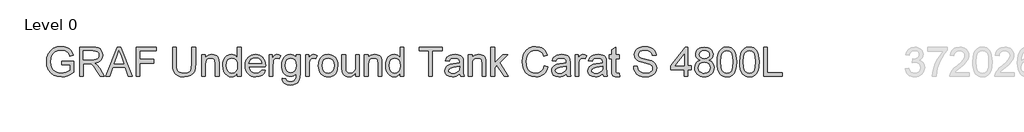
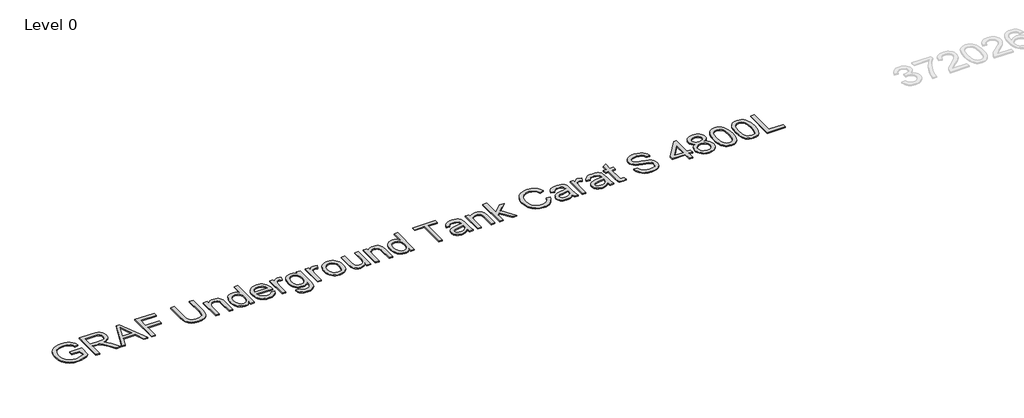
# One storey, part 15 of 20: 1 proxy.
"""IFC4 building model written with IfcOpenShell, lengths in millimetres."""

from ifc_helpers import new_model, si_unit, origin, origin_with_axes, place, context, project, spatial, polyline, outline, extrude, element, save

model = new_model("IFC4")

# Units and contexts
model_context = context("Model", 3, world=origin())
ifc_project = project(units=[si_unit("LENGTHUNIT", "METRE", prefix="MILLI")], contexts=[model_context])

# Site, building, storey
site = spatial("IfcSite", under=ifc_project)
building = spatial("IfcBuilding", under=site)
storey = spatial("IfcBuildingStorey", under=building, Name="Level 0", Elevation=0.0)

# Proxy
placement = place(None, origin())
element("IfcBuildingElementProxy", 1, Name="300mm Arial", ObjectType="300mm Arial", at=placement, inside=storey, context=model_context, shape_type="SweptSolid", body=[
    extrude(outline(polyline([(-14980.9940387, 1416.7454403), (-14980.9940387, 1454.4165566), (-14858.5629107, 1454.4165566), (-14858.5629107, 1341.7710897), (-14888.3153671, 1321.0777274), (-14919.0059225, 1306.2336889), (-14950.5610007, 1297.2941564), (-14982.9070251, 1294.3143123), (-15025.1674693, 1299.050793), (-15063.3628175, 1313.260235), (-15095.0926395, 1336.4459978), (-15117.9565055, 1368.1114405), (-15131.7796715, 1406.0952565), (-15136.3873935, 1448.2361391), (-15131.7980656, 1490.6805243), (-15118.0300819, 1530.1634594), (-15095.6536596, 1563.282036), (-15065.2390156, 1586.6333457), (-15028.1932987, 1600.4841028), (-14985.9236575, 1605.1010218), (-14954.8928112, 1602.4246803), (-14926.9889618, 1594.3956557), (-14903.4904994, 1581.5933623), (-14885.6758138, 1564.5972141), (-14872.4964413, 1542.5886738), (-14862.9039183, 1514.7492038), (-14897.6319786, 1504.9635427), (-14905.3850917, 1524.8199734), (-14914.8120678, 1539.8019677), (-14927.2832674, 1551.0959449), (-14944.169051, 1559.8883246), (-14964.3013932, 1565.5445103), (-14986.5122687, 1567.4299055), (-15012.5123287, 1565.3973575), (-15034.7415982, 1559.2997134), (-15053.1173039, 1549.9003284), (-15067.5566722, 1537.9625577), (-15086.9440533, 1508.9366683), (-15095.7732212, 1480.49939), (-15098.7162772, 1449.7812434), (-15095.175413, 1413.7563991), (-15084.5528204, 1384.1143073), (-15067.1703961, 1361.0665003), (-15043.3500369, 1344.8245102), (-15015.4737787, 1335.195199), (-14985.9236575, 1331.9854286), (-14959.831627, 1334.4042527), (-14934.3833899, 1341.6607251), (-14912.2828791, 1351.6579183), (-14896.234027, 1362.298905), (-14896.234027, 1416.7454403), (-14980.9940387, 1416.7454403)])), origin_with_axes(), (0.0, 0.0, 1.0), 10.0),
    extrude(outline(polyline([(-14797.3473467, 1299.0232018), (-14797.3473467, 1600.3921323), (-14667.4850024, 1600.3921323), (-14632.5821982, 1598.3595842), (-14607.1891434, 1592.2619402), (-14588.6294968, 1581.0047511), (-14574.2269167, 1563.4935682), (-14564.9838815, 1541.7793334), (-14561.9028698, 1517.912989), (-14567.0072325, 1488.2249119), (-14582.3203206, 1463.6136065), (-14593.9200997, 1453.5842236), (-14608.3019865, 1445.5689946), (-14645.4120827, 1435.5809984), (-14624.0013506, 1419.467767), (-14593.467145, 1380.6930048), (-14543.2144645, 1299.0232018), (-14586.9924219, 1299.0232018), (-14626.2086426, 1361.4895646), (-14654.5355562, 1402.8395009), (-14674.4379722, 1422.3740348), (-14692.3538253, 1429.5477337), (-14714.2060158, 1430.8721089), (-14759.6762304, 1430.8721089), (-14759.6762304, 1299.0232018), (-14797.3473467, 1299.0232018)]), holes=[polyline([(-14759.6762304, 1468.5432252), (-14675.3576771, 1468.5432252), (-14651.1418448, 1469.8767974), (-14632.3522719, 1473.8775141), (-14618.2072092, 1480.8120897), (-14607.9249074, 1490.9472387), (-14601.6617165, 1503.2069062), (-14599.5739861, 1516.5150374), (-14603.5563087, 1534.890743), (-14615.5032765, 1549.6979933), (-14636.058683, 1559.4652603), (-14665.8663217, 1562.721016), (-14759.6762304, 1562.721016), (-14759.6762304, 1468.5432252)])]), origin_with_axes(), (0.0, 0.0, 1.0), 10.0),
    extrude(outline(polyline([(-14531.0743586, 1299.0232018), (-14410.7769462, 1600.3921323), (-14378.6976362, 1600.3921323), (-14258.4002238, 1299.0232018), (-14298.2050557, 1299.0232018), (-14332.7123868, 1393.2009926), (-14456.835772, 1393.2009926), (-14491.2695268, 1299.0232018), (-14531.0743586, 1299.0232018)]), holes=[polyline([(-14443.003409, 1430.8721089), (-14346.4711735, 1430.8721089), (-14373.6208647, 1504.9635427), (-14394.7372912, 1562.721016), (-14413.499273, 1511.4382658), (-14443.003409, 1430.8721089)])]), origin_with_axes(), (0.0, 0.0, 1.0), 10.0),
    extrude(outline(polyline([(-14218.1539335, 1299.0232018), (-14218.1539335, 1600.3921323), (-14015.6716834, 1600.3921323), (-14015.6716834, 1562.721016), (-14180.4828172, 1562.721016), (-14180.4828172, 1473.2521147), (-14039.2161311, 1473.2521147), (-14039.2161311, 1435.5809984), (-14180.4828172, 1435.5809984), (-14180.4828172, 1299.0232018), (-14218.1539335, 1299.0232018)])), origin_with_axes(), (0.0, 0.0, 1.0), 10.0),
    extrude(outline(polyline([(-13648.3782994, 1600.3921323), (-13610.7071831, 1600.3921323), (-13610.7071831, 1426.5311014), (-13613.263963, 1385.8157615), (-13620.9343026, 1354.4630185), (-13635.2633063, 1330.2747773), (-13657.7960785, 1311.0529431), (-13688.5878015, 1298.49897), (-13727.6936576, 1294.3143123), (-13765.944188, 1297.956344), (-13796.5243789, 1308.8824393), (-13819.4434272, 1326.715519), (-13834.71053, 1351.0785041), (-13843.2913775, 1383.7556224), (-13846.15166, 1426.5311014), (-13846.15166, 1600.3921323), (-13808.4805437, 1600.3921323), (-13808.4805437, 1427.8554765), (-13806.6227396, 1394.0011359), (-13801.0493274, 1370.4290971), (-13790.9509666, 1354.1043335), (-13775.5183169, 1341.9918189), (-13755.3951718, 1334.4870262), (-13731.2253247, 1331.9854286), (-13692.9104149, 1336.9334414), (-13678.5676156, 1343.1184575), (-13667.4345868, 1351.7774799), (-13659.097461, 1363.954374), (-13653.1423712, 1380.6930048), (-13648.3782994, 1427.8554765), (-13648.3782994, 1600.3921323)])), origin_with_axes(), (0.0, 0.0, 1.0), 10.0),
    extrude(outline(polyline([(-13549.4916191, 1299.0232018), (-13549.4916191, 1520.3410101), (-13511.8205028, 1520.3410101), (-13511.8205028, 1489.4389225), (-13498.7331008, 1505.018725), (-13483.0153426, 1516.1471554), (-13464.6672281, 1522.8242136), (-13443.6887573, 1525.0498997), (-13425.1199136, 1523.2564749), (-13408.1145684, 1517.8762008), (-13393.9327174, 1509.5804618), (-13383.8343567, 1499.0406426), (-13372.5403794, 1471.3391284), (-13370.5538166, 1434.9188108), (-13370.5538166, 1299.0232018), (-13408.224933, 1299.0232018), (-13408.224933, 1429.8420393), (-13412.5659405, 1463.1721481), (-13418.5716141, 1473.0957649), (-13427.9066197, 1480.7936956), (-13439.8719816, 1485.7325114), (-13453.768724, 1487.3787834), (-13475.8324466, 1483.6815693), (-13494.6404136, 1472.5899271), (-13502.1567026, 1463.5354315), (-13507.5254805, 1451.1608009), (-13511.8205028, 1416.4511347), (-13511.8205028, 1299.0232018), (-13549.4916191, 1299.0232018)])), origin_with_axes(), (0.0, 0.0, 1.0), 10.0),
    extrude(outline(polyline([(-13182.1982351, 1299.0232018), (-13182.1982351, 1334.5606026), (-13193.4692197, 1316.9528506), (-13207.1222403, 1304.3758849), (-13223.1572968, 1296.8297054), (-13241.5743891, 1294.3143123), (-13265.9281772, 1297.956344), (-13288.2218261, 1308.8824393), (-13307.0941725, 1326.3292429), (-13321.1840529, 1349.5333998), (-13329.9580385, 1377.5568107), (-13332.8827003, 1409.4613768), (-13330.1879647, 1440.9704697), (-13322.1037579, 1469.426142), (-13308.6392769, 1493.209713), (-13289.8037187, 1510.7025018), (-13267.0226262, 1521.4630502), (-13241.7215419, 1525.0498997), (-13223.290654, 1522.4839227), (-13206.9934816, 1514.785992), (-13193.1795127, 1502.986177), (-13182.1982351, 1488.1145473), (-13182.1982351, 1600.3921323), (-13144.5271188, 1600.3921323), (-13144.5271188, 1299.0232018), (-13182.1982351, 1299.0232018)]), holes=[polyline([(-13295.211584, 1409.6085296), (-13290.962547, 1375.5334598), (-13278.2154359, 1351.2992333), (-13259.6925774, 1336.8138798), (-13238.1162984, 1331.9854286), (-13216.5492164, 1336.5931506), (-13198.4954075, 1350.4163165), (-13186.2725282, 1373.7124439), (-13182.1982351, 1406.73905), (-13186.3461046, 1442.8466678), (-13198.7897131, 1467.8810376), (-13217.3033745, 1482.5043469), (-13239.6614028, 1487.3787834), (-13261.458411, 1482.697485), (-13279.3190818, 1468.6535898), (-13291.2384585, 1444.529728), (-13295.211584, 1409.6085296)])]), origin_with_axes(), (0.0, 0.0, 1.0), 10.0),
    extrude(outline(polyline([(-12933.068548, 1364.9476554), (-12896.1331957, 1360.2387658), (-12909.4413268, 1332.4084929), (-12930.677315, 1311.6047661), (-12959.3629136, 1298.6369257), (-12995.019876, 1294.3143123), (-13018.3941782, 1296.1790141), (-13039.2208977, 1301.7731197), (-13057.5000343, 1311.0966291), (-13073.2315881, 1324.1495421), (-13085.8821303, 1340.5685754), (-13094.9182318, 1359.9904455), (-13100.3398927, 1382.4151523), (-13102.147113, 1407.842696), (-13100.3214986, 1434.1324631), (-13094.8446554, 1457.3044302), (-13085.7165834, 1477.3585975), (-13072.9372826, 1494.2949649), (-13057.2471155, 1507.7502488), (-13039.3864446, 1517.361166), (-13019.35527, 1523.1277162), (-12997.1535915, 1525.0498997), (-12975.6669838, 1523.1323148), (-12956.2359166, 1517.3795601), (-12938.8603901, 1507.7916356), (-12923.5404043, 1494.3685413), (-12911.0347157, 1477.4689621), (-12902.102081, 1457.451583), (-12896.7425002, 1434.3164041), (-12894.9559733, 1408.0634252), (-12895.1767025, 1397.9098821), (-13064.4759967, 1397.9098821), (-13057.9552883, 1369.7117272), (-13042.8077471, 1348.9815768), (-13020.9463596, 1336.2344656), (-12994.284112, 1331.9854286), (-12974.2345432, 1333.9535973), (-12957.3487597, 1339.8581033), (-12943.6267612, 1350.0668287), (-12933.068548, 1364.9476554)]), holes=[polyline([(-13064.4759967, 1435.5809984), (-12932.6270896, 1435.5809984), (-12937.7222552, 1455.4834144), (-12947.7102514, 1469.7204476), (-12969.6728065, 1482.9641994), (-12997.3007443, 1487.3787834), (-13022.6937991, 1483.8563132), (-13043.6906639, 1473.2889029), (-13058.2863821, 1456.8169866), (-13064.4759967, 1435.5809984)])]), origin_with_axes(), (0.0, 0.0, 1.0), 10.0),
    extrude(outline(polyline([(-12857.284857, 1299.0232018), (-12857.284857, 1520.3410101), (-12824.3226302, 1520.3410101), (-12824.3226302, 1487.5995125), (-12812.1457362, 1506.5822235), (-12800.9253353, 1517.7658362), (-12789.6681463, 1523.2288838), (-12777.3808876, 1525.0498997), (-12758.6189059, 1522.1436319), (-12739.5626185, 1513.4248286), (-12752.1441828, 1479.6532615), (-12765.3879346, 1485.4474029), (-12778.6316864, 1487.3787834), (-12789.8796784, 1485.5209793), (-12799.9320539, 1479.947567), (-12808.053049, 1471.081611), (-12813.5068996, 1459.3461753), (-12818.0870304, 1438.3033252), (-12819.6137407, 1415.3474887), (-12819.6137407, 1299.0232018), (-12857.284857, 1299.0232018)])), origin_with_axes(), (0.0, 0.0, 1.0), 10.0),
    extrude(outline(polyline([(-12725.4359499, 1280.1876437), (-12687.7648336, 1275.4787541), (-12683.6077671, 1263.7065303), (-12675.5511514, 1255.6131264), (-12659.7138315, 1249.3223443), (-12638.983681, 1247.2254169), (-12616.8739731, 1249.5982558), (-12600.4296479, 1256.7167724), (-12589.0253061, 1268.1211142), (-12582.0355482, 1283.3514288), (-12579.4603742, 1327.2765391), (-12591.9959532, 1314.915704), (-12605.9846661, 1306.0865361), (-12621.4265128, 1300.7890354), (-12638.3214935, 1299.0232018), (-12658.9757682, 1301.0787425), (-12677.1606351, 1307.2453644), (-12692.8760941, 1317.5230677), (-12706.1221452, 1331.9118522), (-12716.6320739, 1349.1747148), (-12724.1391659, 1368.0746523), (-12728.6434211, 1388.6116647), (-12730.1448394, 1410.785752), (-12727.4501038, 1441.2003959), (-12719.365897, 1469.1686246), (-12706.1773275, 1492.8694221), (-12688.1695038, 1510.4817726), (-12665.9586283, 1521.4078679), (-12640.1609034, 1525.0498997), (-12622.5439544, 1522.9897605), (-12606.5548832, 1516.809343), (-12592.1936898, 1506.5086471), (-12579.4603742, 1492.0876729), (-12579.4603742, 1520.3410101), (-12541.7892579, 1520.3410101), (-12541.7892579, 1329.2631018), (-12544.3644319, 1285.1448536), (-12552.0899538, 1256.091373), (-12565.398085, 1236.8235535), (-12584.7210868, 1222.0622884), (-12609.6358949, 1212.6812976), (-12639.719445, 1209.5543006), (-12674.7694021, 1213.9596875), (-12702.3697488, 1227.1758482), (-12712.7647144, 1237.0971657), (-12720.0740698, 1249.2395708), (-12724.297815, 1263.6030635), (-12725.4359499, 1280.1876437)]), holes=[polyline([(-12692.4737231, 1413.3609259), (-12688.4546123, 1378.8076095), (-12676.39728, 1355.0516297), (-12658.2698946, 1341.283646), (-12636.0406251, 1336.6943181), (-12613.9769024, 1341.2560549), (-12595.7575466, 1354.9412651), (-12583.5346673, 1378.3937423), (-12579.4603742, 1412.2572799), (-12583.654229, 1444.9160041), (-12596.2357932, 1468.4328606), (-12614.7218635, 1482.6423027), (-12636.6292363, 1487.3787834), (-12658.1411359, 1482.7158791), (-12676.1765508, 1468.7271662), (-12688.39943, 1445.5597976), (-12692.4737231, 1413.3609259)])]), origin_with_axes(), (0.0, 0.0, 1.0), 10.0),
    extrude(outline(polyline([(-12485.2825835, 1299.0232018), (-12485.2825835, 1520.3410101), (-12452.3203567, 1520.3410101), (-12452.3203567, 1487.5995125), (-12440.1434626, 1506.5822235), (-12428.9230618, 1517.7658362), (-12417.6658727, 1523.2288838), (-12405.3786141, 1525.0498997), (-12386.6166324, 1522.1436319), (-12367.560345, 1513.4248286), (-12380.1419092, 1479.6532615), (-12393.3856611, 1485.4474029), (-12406.6294129, 1487.3787834), (-12417.8774049, 1485.5209793), (-12427.9297804, 1479.947567), (-12436.0507755, 1471.081611), (-12441.504626, 1459.3461753), (-12446.0847569, 1438.3033252), (-12447.6114672, 1415.3474887), (-12447.6114672, 1299.0232018), (-12485.2825835, 1299.0232018)])), origin_with_axes(), (0.0, 0.0, 1.0), 10.0),
    extrude(outline(polyline([(-12353.4336764, 1409.682106), (-12351.3965298, 1438.3447119), (-12345.2850902, 1463.0433894), (-12335.0993575, 1483.7781383), (-12320.8393316, 1500.5489588), (-12306.4827368, 1511.2681204), (-12290.6362198, 1518.9246644), (-12273.2997808, 1523.5185909), (-12254.4734197, 1525.0498997), (-12233.6903862, 1523.1851978), (-12214.8985141, 1517.5910922), (-12198.0978032, 1508.2675829), (-12183.2882536, 1495.2146698), (-12171.2010308, 1478.8738115), (-12162.5673002, 1459.6864662), (-12157.3870619, 1437.6526339), (-12155.6603158, 1412.7723147), (-12158.7137363, 1374.7149223), (-12167.873998, 1345.7442152), (-12182.8743864, 1324.0483745), (-12203.448187, 1307.8155815), (-12227.8847485, 1297.6896296), (-12254.4734197, 1294.3143123), (-12275.5599558, 1296.1721164), (-12294.5265719, 1301.7455286), (-12311.373268, 1311.034549), (-12326.1000441, 1324.0391775), (-12338.0585082, 1340.538685), (-12346.6002683, 1360.3123422), (-12351.7253244, 1383.3601492), (-12353.4336764, 1409.682106)]), holes=[polyline([(-12315.7625601, 1409.7556824), (-12311.4031584, 1375.6622185), (-12298.3249535, 1351.3728097), (-12278.6432668, 1336.8322739), (-12254.4734197, 1331.9854286), (-12230.4139372, 1336.859865), (-12210.7690387, 1351.4831743), (-12197.6908337, 1376.0944798), (-12193.3314321, 1410.9329048), (-12197.7184249, 1444.0330873), (-12210.8794033, 1467.9914022), (-12230.5518929, 1482.5319381), (-12254.4734197, 1487.3787834), (-12278.6432668, 1482.5503322), (-12298.3249535, 1468.0649786), (-12311.4031584, 1443.8307522), (-12315.7625601, 1409.7556824)])]), origin_with_axes(), (0.0, 0.0, 1.0), 10.0),
    extrude(outline(polyline([(-11972.0136238, 1299.0232018), (-11972.0136238, 1337.0622001), (-11985.6436517, 1318.3599992), (-12001.5177598, 1305.0012842), (-12019.6359481, 1296.9860553), (-12039.9982165, 1294.3143123), (-12058.346331, 1296.1905105), (-12075.4252526, 1301.819105), (-12089.7542563, 1310.2803909), (-12099.8526171, 1320.6546631), (-12111.073018, 1348.3929656), (-12113.2803099, 1383.4153315), (-12113.2803099, 1520.3410101), (-12075.6091936, 1520.3410101), (-12075.6091936, 1401.1472437), (-12073.3283253, 1362.7403634), (-12067.8376865, 1349.9288729), (-12058.4291045, 1340.1891971), (-12045.7279786, 1334.0363707), (-12030.3597082, 1331.9854286), (-12014.1085211, 1334.082356), (-11998.9057976, 1340.3731381), (-11986.3702186, 1350.2783608), (-11978.1204649, 1363.21861), (-11973.5403341, 1380.9413251), (-11972.0136238, 1405.1939456), (-11972.0136238, 1520.3410101), (-11934.3425075, 1520.3410101), (-11934.3425075, 1299.0232018), (-11972.0136238, 1299.0232018)])), origin_with_axes(), (0.0, 0.0, 1.0), 10.0),
    extrude(outline(polyline([(-11882.5447226, 1299.0232018), (-11882.5447226, 1520.3410101), (-11844.8736063, 1520.3410101), (-11844.8736063, 1489.4389225), (-11831.7862043, 1505.018725), (-11816.068446, 1516.1471554), (-11797.7203315, 1522.8242136), (-11776.7418607, 1525.0498997), (-11758.173017, 1523.2564749), (-11741.1676718, 1517.8762008), (-11726.9858209, 1509.5804618), (-11716.8874601, 1499.0406426), (-11705.5934829, 1471.3391284), (-11703.6069201, 1434.9188108), (-11703.6069201, 1299.0232018), (-11741.2780364, 1299.0232018), (-11741.2780364, 1429.8420393), (-11745.619044, 1463.1721481), (-11751.6247175, 1473.0957649), (-11760.9597232, 1480.7936956), (-11772.925085, 1485.7325114), (-11786.8218274, 1487.3787834), (-11808.8855501, 1483.6815693), (-11827.6935171, 1472.5899271), (-11835.2098061, 1463.5354315), (-11840.578584, 1451.1608009), (-11844.8736063, 1416.4511347), (-11844.8736063, 1299.0232018), (-11882.5447226, 1299.0232018)])), origin_with_axes(), (0.0, 0.0, 1.0), 10.0),
    extrude(outline(polyline([(-11515.2513386, 1299.0232018), (-11515.2513386, 1334.5606026), (-11526.5223232, 1316.9528506), (-11540.1753437, 1304.3758849), (-11556.2104002, 1296.8297054), (-11574.6274926, 1294.3143123), (-11598.9812807, 1297.956344), (-11621.2749296, 1308.8824393), (-11640.1472759, 1326.3292429), (-11654.2371564, 1349.5333998), (-11663.0111419, 1377.5568107), (-11665.9358038, 1409.4613768), (-11663.2410682, 1440.9704697), (-11655.1568613, 1469.426142), (-11641.6923803, 1493.209713), (-11622.8568222, 1510.7025018), (-11600.0757296, 1521.4630502), (-11574.7746454, 1525.0498997), (-11556.3437574, 1522.4839227), (-11540.046585, 1514.785992), (-11526.2326161, 1502.986177), (-11515.2513386, 1488.1145473), (-11515.2513386, 1600.3921323), (-11477.5802223, 1600.3921323), (-11477.5802223, 1299.0232018), (-11515.2513386, 1299.0232018)]), holes=[polyline([(-11628.2646875, 1409.6085296), (-11624.0156504, 1375.5334598), (-11611.2685393, 1351.2992333), (-11592.7456809, 1336.8138798), (-11571.1694018, 1331.9854286), (-11549.6023199, 1336.5931506), (-11531.548511, 1350.4163165), (-11519.3256317, 1373.7124439), (-11515.2513386, 1406.73905), (-11519.3992081, 1442.8466678), (-11531.8428166, 1467.8810376), (-11550.356478, 1482.5043469), (-11572.7145062, 1487.3787834), (-11594.5115144, 1482.697485), (-11612.3721853, 1468.6535898), (-11624.2915619, 1444.529728), (-11628.2646875, 1409.6085296)])]), origin_with_axes(), (0.0, 0.0, 1.0), 10.0),
    extrude(outline(polyline([(-11223.3001872, 1299.0232018), (-11223.3001872, 1562.721016), (-11322.1868675, 1562.721016), (-11322.1868675, 1600.3921323), (-11086.7423906, 1600.3921323), (-11086.7423906, 1562.721016), (-11185.6290709, 1562.721016), (-11185.6290709, 1299.0232018), (-11223.3001872, 1299.0232018)])), origin_with_axes(), (0.0, 0.0, 1.0), 10.0),
    extrude(outline(polyline([(-10907.8045881, 1327.2765391), (-10925.8032148, 1311.8438894), (-10944.3352703, 1301.7455286), (-10963.823819, 1296.1721164), (-10984.6919251, 1294.3143123), (-11016.1734269, 1298.7840785), (-11039.3959778, 1312.1933772), (-11053.7157845, 1332.5556457), (-11058.4890534, 1357.8843211), (-11056.6864316, 1373.5009117), (-11051.2785663, 1387.6827627), (-11042.936842, 1399.8228685), (-11032.3326435, 1409.314224), (-11005.9555045, 1421.675059), (-10973.3611597, 1427.3404417), (-10934.8439148, 1433.3001301), (-10908.0253173, 1440.289888), (-10907.8045881, 1448.6775975), (-10910.3981562, 1465.4898046), (-10918.1788604, 1476.4894763), (-10935.5796788, 1484.6564566), (-10959.8231023, 1487.3787834), (-10982.263904, 1485.5669645), (-10997.935677, 1480.131508), (-11008.6226489, 1470.0791325), (-11016.1090475, 1454.4165566), (-11053.7801638, 1459.1254461), (-11047.2410614, 1479.7268379), (-11037.4829914, 1495.9136456), (-11023.5954461, 1508.2928748), (-11004.6679175, 1517.4715306), (-10981.5189429, 1523.1553074), (-10954.9670599, 1525.0498997), (-10929.5004288, 1523.3760366), (-10909.3129043, 1518.3544473), (-10894.0917868, 1510.8036694), (-10883.5243765, 1501.5422402), (-10876.5162244, 1490.0919131), (-10871.9728818, 1475.9744415), (-10870.1334718, 1443.0122147), (-10870.1334718, 1396.1440485), (-10868.2204855, 1330.6978416), (-10860.7156928, 1299.0232018), (-10898.3868091, 1299.0232018), (-10907.8045881, 1327.2765391)]), holes=[polyline([(-10907.8045881, 1402.6187717), (-10968.5786937, 1391.067277), (-11000.9890975, 1384.9604359), (-11015.6675891, 1375.027622), (-11020.8179371, 1360.5330714), (-11018.0128368, 1349.3310647), (-11009.5975362, 1340.1524089), (-10995.7559761, 1334.0271737), (-10976.6720976, 1331.9854286), (-10956.4385879, 1334.2387058), (-10938.5595229, 1340.9985375), (-10924.0649723, 1350.9589425), (-10913.9850057, 1362.8139398), (-10909.5152394, 1375.027622), (-10908.0253173, 1391.9501938), (-10907.8045881, 1402.6187717)])]), origin_with_axes(), (0.0, 0.0, 1.0), 10.0),
    extrude(outline(polyline([(-10818.3356869, 1299.0232018), (-10818.3356869, 1520.3410101), (-10780.6645706, 1520.3410101), (-10780.6645706, 1489.4389225), (-10767.5771686, 1505.018725), (-10751.8594104, 1516.1471554), (-10733.5112959, 1522.8242136), (-10712.5328251, 1525.0498997), (-10693.9639814, 1523.2564749), (-10676.9586362, 1517.8762008), (-10662.7767853, 1509.5804618), (-10652.6784245, 1499.0406426), (-10641.3844472, 1471.3391284), (-10639.3978845, 1434.9188108), (-10639.3978845, 1299.0232018), (-10677.0690008, 1299.0232018), (-10677.0690008, 1429.8420393), (-10681.4100083, 1463.1721481), (-10687.4156819, 1473.0957649), (-10696.7506875, 1480.7936956), (-10708.7160494, 1485.7325114), (-10722.6127918, 1487.3787834), (-10744.6765144, 1483.6815693), (-10763.4844814, 1472.5899271), (-10771.0007704, 1463.5354315), (-10776.3695483, 1451.1608009), (-10780.6645706, 1416.4511347), (-10780.6645706, 1299.0232018), (-10818.3356869, 1299.0232018)])), origin_with_axes(), (0.0, 0.0, 1.0), 10.0),
    extrude(outline(polyline([(-10587.6000995, 1299.0232018), (-10587.6000995, 1600.3921323), (-10549.9289832, 1600.3921323), (-10549.9289832, 1438.450478), (-10465.4632771, 1520.3410101), (-10413.3711866, 1520.3410101), (-10498.8669623, 1437.4204084), (-10408.6622971, 1299.0232018), (-10452.6609837, 1299.0232018), (-10525.8695007, 1411.2272104), (-10549.9289832, 1387.9034919), (-10549.9289832, 1299.0232018), (-10587.6000995, 1299.0232018)])), origin_with_axes(), (0.0, 0.0, 1.0), 10.0),
    extrude(outline(polyline([(-10041.3689131, 1406.1504388), (-10003.6977968, 1396.4383541), (-10011.1520057, 1373.0111688), (-10021.0802211, 1352.5408351), (-10033.4824428, 1335.0273528), (-10048.358671, 1320.4707221), (-10065.3732133, 1309.0272928), (-10084.1903773, 1300.8534147), (-10104.8101632, 1295.9490879), (-10127.2325708, 1294.3143123), (-10170.9277547, 1299.2623251), (-10205.6282239, 1314.1063636), (-10232.2260922, 1338.331393), (-10251.6134733, 1371.4223785), (-10263.4500765, 1410.3258995), (-10267.3956109, 1451.9885354), (-10262.9350417, 1495.9320397), (-10249.5533342, 1533.8790675), (-10227.949464, 1564.6248053), (-10198.822407, 1586.9644394), (-10164.2782877, 1600.5668762), (-10126.4232304, 1605.1010218), (-10085.1192794, 1599.233304), (-10067.1505432, 1591.8986567), (-10050.9706332, 1581.6301505), (-10036.8462638, 1568.6990984), (-10025.0441496, 1553.3768133), (-10008.4066863, 1515.5585442), (-10046.0778026, 1506.5822235), (-10059.1376135, 1534.0538115), (-10076.9798902, 1552.8985667), (-10099.8253621, 1563.7970708), (-10127.8947584, 1567.4299055), (-10160.2499798, 1563.4015977), (-10186.829454, 1551.3166741), (-10206.9985844, 1532.4443278), (-10220.1227746, 1508.0537515), (-10227.3240646, 1480.4809959), (-10229.7244946, 1452.0621118), (-10226.8826062, 1417.2604751), (-10218.356941, 1387.1677279), (-10203.8256022, 1362.9335014), (-10182.966693, 1345.707427), (-10157.9599144, 1335.4159282), (-10130.9849671, 1331.9854286), (-10099.5402536, 1336.6575299), (-10073.3378585, 1350.6738339), (-10053.5550042, 1373.8871878), (-10041.3689131, 1406.1504388)])), origin_with_axes(), (0.0, 0.0, 1.0), 10.0),
    extrude(outline(polyline([(-9815.3422153, 1327.2765391), (-9833.3408419, 1311.8438894), (-9851.8728974, 1301.7455286), (-9871.3614461, 1296.1721164), (-9892.2295523, 1294.3143123), (-9923.711054, 1298.7840785), (-9946.9336049, 1312.1933772), (-9961.2534116, 1332.5556457), (-9966.0266805, 1357.8843211), (-9964.2240587, 1373.5009117), (-9958.8161934, 1387.6827627), (-9950.4744691, 1399.8228685), (-9939.8702706, 1409.314224), (-9913.4931316, 1421.675059), (-9880.8987868, 1427.3404417), (-9842.3815419, 1433.3001301), (-9815.5629445, 1440.289888), (-9815.3422153, 1448.6775975), (-9817.9357833, 1465.4898046), (-9825.7164875, 1476.4894763), (-9843.1173059, 1484.6564566), (-9867.3607294, 1487.3787834), (-9889.8015311, 1485.5669645), (-9905.4733041, 1480.131508), (-9916.160276, 1470.0791325), (-9923.6466746, 1454.4165566), (-9961.3177909, 1459.1254461), (-9954.7786885, 1479.7268379), (-9945.0206186, 1495.9136456), (-9931.1330732, 1508.2928748), (-9912.2055446, 1517.4715306), (-9889.05657, 1523.1553074), (-9862.504687, 1525.0498997), (-9837.0380559, 1523.3760366), (-9816.8505314, 1518.3544473), (-9801.6294139, 1510.8036694), (-9791.0620036, 1501.5422402), (-9784.0538516, 1490.0919131), (-9779.5105089, 1475.9744415), (-9777.671099, 1443.0122147), (-9777.671099, 1396.1440485), (-9775.7581126, 1330.6978416), (-9768.2533199, 1299.0232018), (-9805.9244362, 1299.0232018), (-9815.3422153, 1327.2765391)]), holes=[polyline([(-9815.3422153, 1402.6187717), (-9876.1163209, 1391.067277), (-9908.5267246, 1384.9604359), (-9923.2052162, 1375.027622), (-9928.3555642, 1360.5330714), (-9925.550464, 1349.3310647), (-9917.1351633, 1340.1524089), (-9903.2936033, 1334.0271737), (-9884.2097248, 1331.9854286), (-9863.976215, 1334.2387058), (-9846.0971501, 1340.9985375), (-9831.6025994, 1350.9589425), (-9821.5226328, 1362.8139398), (-9817.0528665, 1375.027622), (-9815.5629445, 1391.9501938), (-9815.3422153, 1402.6187717)])]), origin_with_axes(), (0.0, 0.0, 1.0), 10.0),
    extrude(outline(polyline([(-9725.873314, 1299.0232018), (-9725.873314, 1520.3410101), (-9692.9110873, 1520.3410101), (-9692.9110873, 1487.5995125), (-9680.7341932, 1506.5822235), (-9669.5137924, 1517.7658362), (-9658.2566033, 1523.2288838), (-9645.9693447, 1525.0498997), (-9627.2073629, 1522.1436319), (-9608.1510756, 1513.4248286), (-9620.7326398, 1479.6532615), (-9633.9763916, 1485.4474029), (-9647.2201435, 1487.3787834), (-9658.4681355, 1485.5209793), (-9668.520511, 1479.947567), (-9676.641506, 1471.081611), (-9682.0953566, 1459.3461753), (-9686.6754874, 1438.3033252), (-9688.2021977, 1415.3474887), (-9688.2021977, 1299.0232018), (-9725.873314, 1299.0232018)])), origin_with_axes(), (0.0, 0.0, 1.0), 10.0),
    extrude(outline(polyline([(-9443.3399417, 1327.2765391), (-9461.3385684, 1311.8438894), (-9479.8706239, 1301.7455286), (-9499.3591726, 1296.1721164), (-9520.2272787, 1294.3143123), (-9551.7087805, 1298.7840785), (-9574.9313314, 1312.1933772), (-9589.2511381, 1332.5556457), (-9594.024407, 1357.8843211), (-9592.2217852, 1373.5009117), (-9586.8139199, 1387.6827627), (-9578.4721956, 1399.8228685), (-9567.8679971, 1409.314224), (-9541.4908581, 1421.675059), (-9508.8965133, 1427.3404417), (-9470.3792684, 1433.3001301), (-9443.5606709, 1440.289888), (-9443.3399417, 1448.6775975), (-9445.9335098, 1465.4898046), (-9453.714214, 1476.4894763), (-9471.1150324, 1484.6564566), (-9495.3584559, 1487.3787834), (-9517.7992576, 1485.5669645), (-9533.4710306, 1480.131508), (-9544.1580025, 1470.0791325), (-9551.6444011, 1454.4165566), (-9589.3155174, 1459.1254461), (-9582.776415, 1479.7268379), (-9573.018345, 1495.9136456), (-9559.1307997, 1508.2928748), (-9540.2032711, 1517.4715306), (-9517.0542965, 1523.1553074), (-9490.5024135, 1525.0498997), (-9465.0357824, 1523.3760366), (-9444.8482579, 1518.3544473), (-9429.6271404, 1510.8036694), (-9419.0597301, 1501.5422402), (-9412.051578, 1490.0919131), (-9407.5082354, 1475.9744415), (-9405.6688254, 1443.0122147), (-9405.6688254, 1396.1440485), (-9403.7558391, 1330.6978416), (-9396.2510464, 1299.0232018), (-9433.9221627, 1299.0232018), (-9443.3399417, 1327.2765391)]), holes=[polyline([(-9443.3399417, 1402.6187717), (-9504.1140473, 1391.067277), (-9536.5244511, 1384.9604359), (-9551.2029427, 1375.027622), (-9556.3532907, 1360.5330714), (-9553.5481904, 1349.3310647), (-9545.1328898, 1340.1524089), (-9531.2913297, 1334.0271737), (-9512.2074512, 1331.9854286), (-9491.9739415, 1334.2387058), (-9474.0948765, 1340.9985375), (-9459.6003259, 1350.9589425), (-9449.5203593, 1362.8139398), (-9445.050593, 1375.027622), (-9443.5606709, 1391.9501938), (-9443.3399417, 1402.6187717)])]), origin_with_axes(), (0.0, 0.0, 1.0), 10.0),
    extrude(outline(polyline([(-9273.8199184, 1330.4403242), (-9269.1110288, 1297.9195558), (-9297.2907897, 1294.3143123), (-9315.3721897, 1295.8778108), (-9328.8550648, 1300.5683062), (-9338.3832085, 1307.7971874), (-9344.6004142, 1316.9758432), (-9348.0217168, 1332.7395867), (-9349.162151, 1359.723731), (-9349.162151, 1482.6698938), (-9377.4154882, 1482.6698938), (-9377.4154882, 1520.3410101), (-9349.162151, 1520.3410101), (-9349.162151, 1574.1253578), (-9311.4910347, 1596.2718539), (-9311.4910347, 1520.3410101), (-9273.8199184, 1520.3410101), (-9273.8199184, 1482.6698938), (-9311.4910347, 1482.6698938), (-9311.4910347, 1360.827377), (-9309.5044719, 1341.4032077), (-9303.066537, 1334.5238144), (-9290.2274553, 1331.9854286), (-9273.8199184, 1330.4403242)])), origin_with_axes(), (0.0, 0.0, 1.0), 10.0),
    extrude(outline(polyline([(-9127.8443427, 1402.6187717), (-9090.1732264, 1402.6187717), (-9085.8506129, 1381.7138773), (-9078.0331205, 1364.9108672), (-9065.8378324, 1351.5751448), (-9048.3818317, 1341.0721139), (-9027.044676, 1334.2570999), (-9003.2059227, 1331.9854286), (-8982.2182549, 1333.7052769), (-8963.8425492, 1338.8648219), (-8948.9525255, 1347.0318022), (-8938.4219034, 1357.7739565), (-8932.1587124, 1370.1072003), (-8930.0709821, 1383.0474495), (-8931.6344805, 1395.6566049), (-8936.324976, 1406.555109), (-8945.8531197, 1415.8533264), (-8961.9295629, 1423.6616218), (-9016.7807683, 1438.0458078), (-9052.7872186, 1447.5647544), (-9075.8258286, 1456.6238486), (-9094.5786133, 1469.2973833), (-9107.8683503, 1484.6564566), (-9115.7870103, 1502.3699747), (-9118.4265636, 1522.1068437), (-9115.1616109, 1544.1705664), (-9105.3667528, 1564.7443669), (-9089.2995066, 1582.1819735), (-9067.2173899, 1594.8371141), (-9040.7114921, 1602.5350449), (-9011.372903, 1605.1010218), (-8979.5878986, 1602.4154832), (-8951.7760198, 1594.3588675), (-8928.9305479, 1581.0967216), (-8912.0447643, 1562.7945924), (-8901.3577923, 1540.592914), (-8897.1087553, 1515.6321206), (-8934.7798716, 1515.6321206), (-8941.6960531, 1538.1097105), (-8956.1170273, 1554.3333065), (-8978.6497995, 1564.1557557), (-9009.901375, 1567.4299055), (-9041.8887145, 1564.1925439), (-9063.8328755, 1554.4804593), (-9076.5248043, 1540.1882438), (-9080.7554473, 1523.2104897), (-9077.757209, 1508.7343332), (-9068.7624942, 1497.090868), (-9047.4989149, 1486.6798076), (-9007.2526247, 1476.0480179), (-8965.7187474, 1465.9496571), (-8940.5924071, 1457.1388833), (-8919.1172957, 1443.4720672), (-8904.1353014, 1426.6046777), (-8895.3337247, 1406.7206559), (-8892.3998658, 1384.0039427), (-8895.7751831, 1360.7813918), (-8905.901135, 1338.9383983), (-8922.3638543, 1320.1396283), (-8944.7494737, 1306.0497479), (-8971.6692387, 1297.2481712), (-9001.7343947, 1294.3143123), (-9038.6421559, 1297.4780974), (-9069.0200116, 1306.9694529), (-9093.2174499, 1322.8251669), (-9111.5839585, 1345.0820276), (-9123.3745764, 1372.1949307), (-9127.8443427, 1402.6187717)])), origin_with_axes(), (0.0, 0.0, 1.0), 10.0),
    extrude(outline(polyline([(-8609.8664935, 1299.0232018), (-8609.8664935, 1369.6565449), (-8746.4242901, 1369.6565449), (-8746.4242901, 1407.3276612), (-8600.4487144, 1595.6832427), (-8572.1953772, 1595.6832427), (-8572.1953772, 1407.3276612), (-8534.5242609, 1407.3276612), (-8534.5242609, 1369.6565449), (-8572.1953772, 1369.6565449), (-8572.1953772, 1299.0232018), (-8609.8664935, 1299.0232018)]), holes=[polyline([(-8609.8664935, 1407.3276612), (-8609.8664935, 1523.7255245), (-8700.0711587, 1407.3276612), (-8609.8664935, 1407.3276612)])]), origin_with_axes(), (0.0, 0.0, 1.0), 10.0),
    extrude(outline(polyline([(-8446.6740404, 1465.011558), (-8466.8431708, 1474.9443719), (-8480.9974306, 1488.4088529), (-8489.3575489, 1505.1290896), (-8492.144255, 1524.8291705), (-8490.6267418, 1540.1928423), (-8486.0742021, 1554.2781242), (-8478.4866359, 1567.0850161), (-8467.8640433, 1578.6135182), (-8454.7168605, 1588.1416618), (-8439.5555238, 1594.9474787), (-8403.1903886, 1600.3921323), (-8366.6045242, 1594.81872), (-8351.2776405, 1587.8519548), (-8337.9281226, 1578.0984834), (-8327.112392, 1566.3446536), (-8319.3868701, 1553.3768133), (-8314.7515569, 1539.1949624), (-8313.2064526, 1523.7991009), (-8315.9563705, 1504.7336165), (-8324.2061242, 1488.2984883), (-8338.0476843, 1474.9167808), (-8357.5730212, 1465.011558), (-8334.3872584, 1453.0645903), (-8317.5106719, 1435.4706338), (-8307.2191731, 1413.0758174), (-8303.7886735, 1386.7262695), (-8305.4901277, 1367.9366966), (-8310.5944904, 1350.7106221), (-8319.1017615, 1335.0480462), (-8331.0119411, 1320.9489687), (-8345.6996298, 1309.2963065), (-8362.5394281, 1300.9729764), (-8381.5313361, 1295.9789783), (-8402.6753538, 1294.3143123), (-8423.8193715, 1295.9858761), (-8442.8112795, 1301.0005675), (-8459.6510778, 1309.3583866), (-8474.3387664, 1321.0593333), (-8486.248946, 1335.2572791), (-8494.7562172, 1351.1060953), (-8499.8605799, 1368.6057819), (-8501.5620341, 1387.7563391), (-8497.9935787, 1415.1267595), (-8487.2882127, 1437.6411376), (-8469.9977589, 1454.5269212), (-8446.6740404, 1465.011558)]), holes=[polyline([(-8454.4731387, 1523.7255245), (-8451.1346096, 1507.2811993), (-8441.1190223, 1494.1478121), (-8424.7206823, 1485.5393734), (-8402.2338954, 1482.6698938), (-8380.2713403, 1485.5209793), (-8364.1213207, 1494.0742357), (-8354.1885068, 1506.7661645), (-8350.8775689, 1522.0332673), (-8354.2988714, 1537.8797842), (-8364.5627791, 1550.9855803), (-8380.9335279, 1559.7871571), (-8402.6753538, 1562.721016), (-8424.5551354, 1559.8515364), (-8440.8982931, 1551.2430977), (-8451.0794273, 1538.6247453), (-8454.4731387, 1523.7255245)]), polyline([(-8463.8909178, 1389.0807142), (-8457.6001357, 1360.7170124), (-8448.8905294, 1348.5493154), (-8435.343275, 1339.4902213), (-8419.119679, 1333.8616268), (-8402.3810482, 1331.9854286), (-8376.7396731, 1335.930963), (-8357.4994448, 1347.7675662), (-8345.4697035, 1365.6926164), (-8341.4597898, 1387.9034919), (-8345.5984622, 1410.4914464), (-8358.0144796, 1428.8119697), (-8377.6961663, 1440.9520756), (-8403.631847, 1444.9987775), (-8428.9145371, 1441.0072579), (-8447.9616274, 1429.0326989), (-8459.9085952, 1411.0616635), (-8463.8909178, 1389.0807142)])]), origin_with_axes(), (0.0, 0.0, 1.0), 10.0),
    extrude(outline(polyline([(-8270.8264467, 1447.2796459), (-8268.0581347, 1495.5181725), (-8259.7531987, 1533.9894321), (-8245.994412, 1563.282036), (-8226.8645483, 1583.9845953), (-8202.2256517, 1596.290248), (-8171.9397664, 1600.3921323), (-8148.7264125, 1597.9641111), (-8127.9410798, 1590.6800476), (-8110.5586555, 1578.8250503), (-8097.554027, 1562.6842278), (-8087.7315777, 1542.3955357), (-8079.8956912, 1518.0969299), (-8074.7637374, 1487.2408276), (-8073.0530861, 1447.2796459), (-8075.793807, 1399.3170308), (-8084.0159696, 1360.9377416), (-8097.6919827, 1331.6175466), (-8116.7942553, 1310.8322139), (-8141.4883343, 1298.4437877), (-8171.9397664, 1294.3143123), (-8192.6883109, 1296.107737), (-8211.0824107, 1301.4880112), (-8227.1220657, 1310.4551348), (-8240.8072759, 1323.0091079), (-8253.9406631, 1345.7028285), (-8263.321654, 1373.9791583), (-8268.9502485, 1407.8380975), (-8270.8264467, 1447.2796459)]), holes=[polyline([(-8233.1553304, 1447.3532223), (-8228.7407465, 1388.0966299), (-8223.2225165, 1367.8286312), (-8215.4969946, 1353.8008309), (-8195.7785197, 1337.4392792), (-8171.9397664, 1331.9854286), (-8148.1010131, 1337.4576733), (-8128.3825382, 1353.8744073), (-8120.6570163, 1367.9252003), (-8115.1387864, 1388.1886004), (-8110.7242024, 1447.3532223), (-8114.9916336, 1505.2762424), (-8120.3259225, 1525.4775625), (-8127.793927, 1539.8387559), (-8147.4756137, 1557.0004509), (-8172.3812248, 1562.721016), (-8195.9624607, 1557.6810326), (-8214.9083834, 1542.5610826), (-8222.8914227, 1526.9260978), (-8228.5935937, 1505.8464595), (-8233.1553304, 1447.3532223)])]), origin_with_axes(), (0.0, 0.0, 1.0), 10.0),
    extrude(outline(polyline([(-8040.0908593, 1447.2796459), (-8037.3225473, 1495.5181725), (-8029.0176113, 1533.9894321), (-8015.2588247, 1563.282036), (-7996.1289609, 1583.9845953), (-7971.4900643, 1596.290248), (-7941.204179, 1600.3921323), (-7917.9908251, 1597.9641111), (-7897.2054924, 1590.6800476), (-7879.8230681, 1578.8250503), (-7866.8184396, 1562.6842278), (-7856.9959903, 1542.3955357), (-7849.1601038, 1518.0969299), (-7844.02815, 1487.2408276), (-7842.3174987, 1447.2796459), (-7845.0582196, 1399.3170308), (-7853.2803822, 1360.9377416), (-7866.9563954, 1331.6175466), (-7886.058668, 1310.8322139), (-7910.7527469, 1298.4437877), (-7941.204179, 1294.3143123), (-7961.9527236, 1296.107737), (-7980.3468233, 1301.4880112), (-7996.3864783, 1310.4551348), (-8010.0716885, 1323.0091079), (-8023.2050758, 1345.7028285), (-8032.5860666, 1373.9791583), (-8038.2146612, 1407.8380975), (-8040.0908593, 1447.2796459)]), holes=[polyline([(-8002.419743, 1447.3532223), (-7998.0051591, 1388.0966299), (-7992.4869292, 1367.8286312), (-7984.7614073, 1353.8008309), (-7965.0429323, 1337.4392792), (-7941.204179, 1331.9854286), (-7917.3654257, 1337.4576733), (-7897.6469508, 1353.8744073), (-7889.9214289, 1367.9252003), (-7884.403199, 1388.1886004), (-7879.988615, 1447.3532223), (-7884.2560462, 1505.2762424), (-7889.5903351, 1525.4775625), (-7897.0583396, 1539.8387559), (-7916.7400264, 1557.0004509), (-7941.6456374, 1562.721016), (-7965.2268733, 1557.6810326), (-7984.1727961, 1542.5610826), (-7992.1558354, 1526.9260978), (-7997.8580063, 1505.8464595), (-8002.419743, 1447.3532223)])]), origin_with_axes(), (0.0, 0.0, 1.0), 10.0),
    extrude(outline(polyline([(-7795.2286033, 1299.0232018), (-7795.2286033, 1600.3921323), (-7757.557487, 1600.3921323), (-7757.557487, 1336.6943181), (-7606.8730218, 1336.6943181), (-7606.8730218, 1299.0232018), (-7795.2286033, 1299.0232018)])), origin_with_axes(), (0.0, 0.0, 1.0), 10.0),
])

save(model, "model.ifc")
